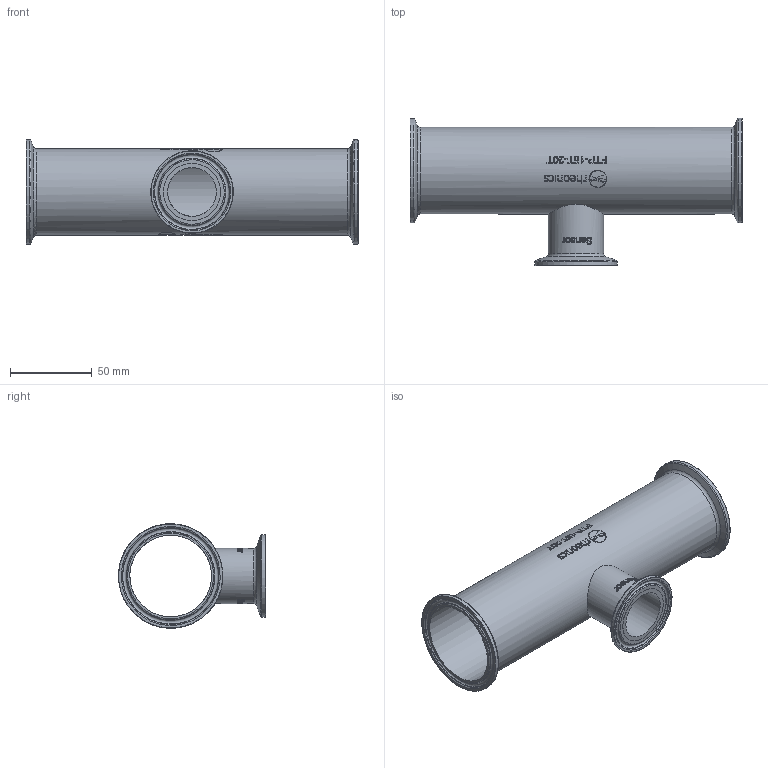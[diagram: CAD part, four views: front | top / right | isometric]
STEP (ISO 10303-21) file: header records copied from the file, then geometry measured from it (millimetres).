
FILE_DESCRIPTION(/* description */ ('Unknown'),/* implementation_level */ '2;1');
FILE_NAME(/* name */ 'FTP-15T-20T',/* time_stamp */ '2025-02-06T15:26:15-05:00',/* author */ ('Unknown'),/* organization */ ('Unknown'),/* preprocessor_version */ 'ST-DEVELOPER v16.7',/* originating_system */ 'Solid Edge',/* authorisation */ 'Unknown');
FILE_SCHEMA (('AUTOMOTIVE_DESIGN {1 0 10303 214 3 1 1}'));
Length unit declared in the file: millimetre
Products named in the file (1): FTP-15T-20T
Bounding box: 203 x 89.97 x 63.94 mm (x, y, z)
Volume: 65786.5 mm3; surface area: 78125.7 mm2
Topology: 1 solids, 1 shells, 520 faces, 1315 edges, 871 vertices
Faces by surface type: bspline 228, plane 187, cylinder 78, torus 18, cone 9
Full cylindrical faces by diameter (mm): 29.7 x1, 33.7 x1, 35 x1, 50 x1, 50.5 x1, 53 x1, 64 x2
Entity records: 42138 total; most frequent: CARTESIAN_POINT 27592, ORIENTED_EDGE 2518, DIRECTION 1594, EDGE_CURVE 1259, VERTEX_POINT 859, EDGE_LOOP 642, FACE_BOUND 642, LINE 534
